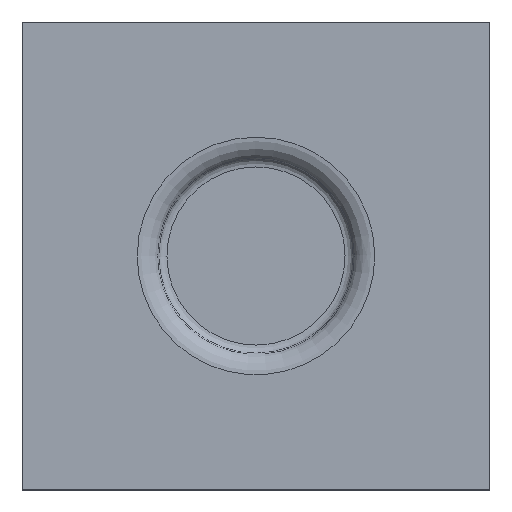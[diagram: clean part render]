
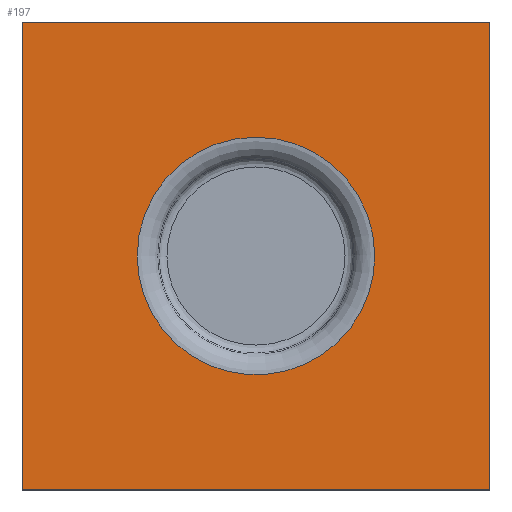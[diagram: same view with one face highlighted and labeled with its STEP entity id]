
A CAD part, top view. The second image highlights one B-rep face of the part: STEP entity #197.
In plain terms, the highlighted planar face has unit normal (0, 0, 1).
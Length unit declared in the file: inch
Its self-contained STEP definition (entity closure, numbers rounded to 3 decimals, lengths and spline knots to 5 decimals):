
#26=CARTESIAN_POINT('',(7.12,-1.67,20.));
#27=VERTEX_POINT('',#26);
#42=CARTESIAN_POINT('',(8.12,-1.67,20.));
#43=VERTEX_POINT('',#42);
#50=CARTESIAN_POINT('',(9.75631,-1.67,20.));
#51=DIRECTION('',(1.,0.,0.));
#52=VECTOR('',#51,1.);
#53=LINE('',#50,#52);
#54=EDGE_CURVE('',#27,#43,#53,.T.);
#73=CARTESIAN_POINT('',(8.12,-0.67,20.));
#74=VERTEX_POINT('',#73);
#81=CARTESIAN_POINT('',(8.12,18.52859,20.));
#82=DIRECTION('',(0.,1.,0.));
#83=VECTOR('',#82,1.);
#84=LINE('',#81,#83);
#85=EDGE_CURVE('',#43,#74,#84,.T.);
#132=CARTESIAN_POINT('',(7.12,-0.67,20.));
#133=VERTEX_POINT('',#132);
#140=CARTESIAN_POINT('',(14.23716,-0.67,20.));
#141=DIRECTION('',(-1.,0.,0.));
#142=VECTOR('',#141,1.);
#143=LINE('',#140,#142);
#144=EDGE_CURVE('',#74,#133,#143,.T.);
#155=CARTESIAN_POINT('',(7.12,24.8665,20.));
#156=DIRECTION('',(0.,-1.,0.));
#157=VECTOR('',#156,1.);
#158=LINE('',#155,#157);
#159=EDGE_CURVE('',#133,#27,#158,.T.);
#171=ORIENTED_EDGE('',*,*,#54,.T.);
#172=ORIENTED_EDGE('',*,*,#85,.T.);
#173=ORIENTED_EDGE('',*,*,#144,.T.);
#174=ORIENTED_EDGE('',*,*,#159,.T.);
#175=EDGE_LOOP('',(#171,#172,#173,#174));
#176=FACE_OUTER_BOUND('',#175,.T.);
#177=CARTESIAN_POINT('',(7.36613,-1.17,20.));
#178=VERTEX_POINT('',#177);
#179=CARTESIAN_POINT('',(7.87385,-1.1674,20.));
#180=VERTEX_POINT('',#179);
#181=CARTESIAN_POINT('',(7.62,-1.17,20.));
#182=DIRECTION('',(0.,0.,-1.));
#183=DIRECTION('',(1.,0.,0.));
#184=AXIS2_PLACEMENT_3D('',#181,#182,#183);
#185=CIRCLE('',#184,0.25387);
#186=EDGE_CURVE('',#178,#180,#185,.T.);
#187=ORIENTED_EDGE('',*,*,#186,.T.);
#188=EDGE_CURVE('',#180,#178,#185,.T.);
#189=ORIENTED_EDGE('',*,*,#188,.T.);
#190=EDGE_LOOP('',(#187,#189));
#191=FACE_BOUND('',#190,.T.);
#192=CARTESIAN_POINT('',(0.,0.,20.));
#193=DIRECTION('',(0.,0.,1.));
#194=DIRECTION('',(1.,0.,0.));
#195=AXIS2_PLACEMENT_3D('',#192,#193,#194);
#196=PLANE('',#195);
#197=ADVANCED_FACE('',(#176,#191),#196,.T.);
